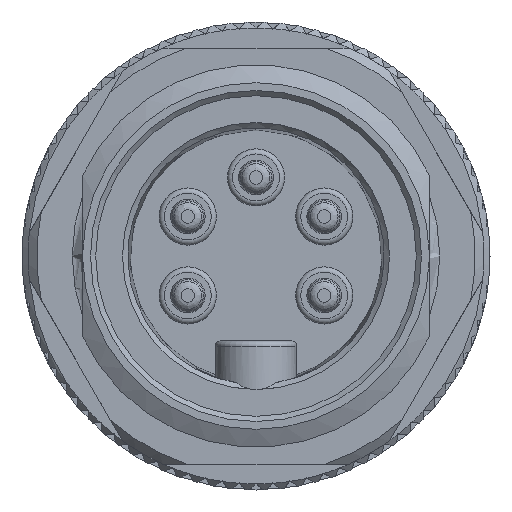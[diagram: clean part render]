
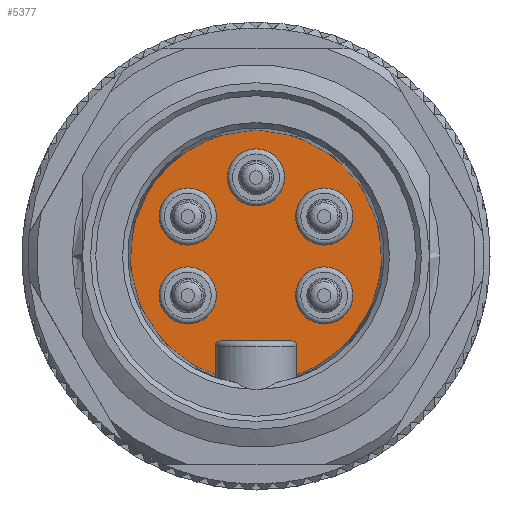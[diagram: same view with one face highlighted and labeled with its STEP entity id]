
A CAD part, left-side view. The second image highlights one B-rep face of the part: STEP entity #5377.
In plain terms, the highlighted planar face has unit normal (-1, 0, 0).
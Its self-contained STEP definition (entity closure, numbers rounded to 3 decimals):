
#1177=CIRCLE('',#17681,1.65);
#1178=CIRCLE('',#17684,1.65);
#1179=CIRCLE('',#17687,1.65);
#1180=CIRCLE('',#17690,0.3);
#1185=CIRCLE('',#17697,0.3);
#1192=CIRCLE('',#17712,1.65);
#1193=CIRCLE('',#17715,1.65);
#1194=CIRCLE('',#17718,7.25);
#1722=PLANE('',#17720);
#3520=LINE('',#29293,#4438);
#3521=LINE('',#29300,#4439);
#3522=LINE('',#29307,#4440);
#4438=VECTOR('',#21953,1.);
#4439=VECTOR('',#21956,1.);
#4440=VECTOR('',#21959,1.);
#5377=ADVANCED_FACE('',(#5702,#5703,#5704,#5705,#5706,#5707),#1722,.F.);
#5702=FACE_BOUND('',#6687,.T.);
#5703=FACE_BOUND('',#6688,.T.);
#5704=FACE_BOUND('',#6689,.T.);
#5705=FACE_BOUND('',#6690,.T.);
#5706=FACE_BOUND('',#6691,.T.);
#5707=FACE_BOUND('',#6692,.T.);
#6687=EDGE_LOOP('',(#11364));
#6688=EDGE_LOOP('',(#11365));
#6689=EDGE_LOOP('',(#11366));
#6690=EDGE_LOOP('',(#11367));
#6691=EDGE_LOOP('',(#11368));
#6692=EDGE_LOOP('',(#11369,#11370,#11371,#11372,#11373,#11374));
#11364=ORIENTED_EDGE('',*,*,#15288,.F.);
#11365=ORIENTED_EDGE('',*,*,#15289,.T.);
#11366=ORIENTED_EDGE('',*,*,#15290,.T.);
#11367=ORIENTED_EDGE('',*,*,#15319,.F.);
#11368=ORIENTED_EDGE('',*,*,#15318,.F.);
#11369=ORIENTED_EDGE('',*,*,#15311,.T.);
#11370=ORIENTED_EDGE('',*,*,#15291,.T.);
#11371=ORIENTED_EDGE('',*,*,#15313,.T.);
#11372=ORIENTED_EDGE('',*,*,#15298,.T.);
#11373=ORIENTED_EDGE('',*,*,#15309,.F.);
#11374=ORIENTED_EDGE('',*,*,#15320,.T.);
#12941=VERTEX_POINT('',#29207);
#12942=VERTEX_POINT('',#29211);
#12943=VERTEX_POINT('',#29215);
#12944=VERTEX_POINT('',#29219);
#12945=VERTEX_POINT('',#29220);
#12950=VERTEX_POINT('',#29234);
#12951=VERTEX_POINT('',#29235);
#12957=VERTEX_POINT('',#29294);
#12958=VERTEX_POINT('',#29301);
#12963=VERTEX_POINT('',#29320);
#12964=VERTEX_POINT('',#29324);
#15288=EDGE_CURVE('',#12941,#12941,#1177,.T.);
#15289=EDGE_CURVE('',#12942,#12942,#1178,.T.);
#15290=EDGE_CURVE('',#12943,#12943,#1179,.T.);
#15291=EDGE_CURVE('',#12944,#12945,#1180,.T.);
#15298=EDGE_CURVE('',#12950,#12951,#1185,.T.);
#15309=EDGE_CURVE('',#12957,#12951,#3520,.T.);
#15311=EDGE_CURVE('',#12958,#12944,#3521,.T.);
#15313=EDGE_CURVE('',#12945,#12950,#3522,.T.);
#15318=EDGE_CURVE('',#12963,#12963,#1192,.T.);
#15319=EDGE_CURVE('',#12964,#12964,#1193,.T.);
#15320=EDGE_CURVE('',#12957,#12958,#1194,.T.);
#17681=AXIS2_PLACEMENT_3D('',#29206,#21903,#21904);
#17684=AXIS2_PLACEMENT_3D('',#29210,#21909,#21910);
#17687=AXIS2_PLACEMENT_3D('',#29214,#21915,#21916);
#17690=AXIS2_PLACEMENT_3D('',#29218,#21921,#21922);
#17697=AXIS2_PLACEMENT_3D('',#29233,#21937,#21938);
#17712=AXIS2_PLACEMENT_3D('',#29319,#21974,#21975);
#17715=AXIS2_PLACEMENT_3D('',#29323,#21980,#21981);
#17718=AXIS2_PLACEMENT_3D('',#29327,#21986,#21987);
#17720=AXIS2_PLACEMENT_3D('',#29329,#21990,#21991);
#21903=DIRECTION('',(-1.,0.,0.));
#21904=DIRECTION('',(0.,0.,1.));
#21909=DIRECTION('',(1.,0.,0.));
#21910=DIRECTION('',(0.,0.,-1.));
#21915=DIRECTION('',(1.,0.,0.));
#21916=DIRECTION('',(0.,0.,-1.));
#21921=DIRECTION('',(1.,0.,0.));
#21922=DIRECTION('',(0.,0.,-1.));
#21937=DIRECTION('',(1.,0.,0.));
#21938=DIRECTION('',(0.,0.,-1.));
#21953=DIRECTION('',(0.,0.,1.));
#21956=DIRECTION('',(0.,0.,1.));
#21959=DIRECTION('',(0.,-1.,0.));
#21974=DIRECTION('',(-1.,0.,0.));
#21975=DIRECTION('',(0.,0.,1.));
#21980=DIRECTION('',(-1.,0.,0.));
#21981=DIRECTION('',(0.,0.,1.));
#21986=DIRECTION('',(-1.,0.,0.));
#21987=DIRECTION('',(0.,0.,1.));
#21990=DIRECTION('',(1.,0.,0.));
#21991=DIRECTION('',(0.,0.,-1.));
#29206=CARTESIAN_POINT('',(7.39,0.,4.535));
#29207=CARTESIAN_POINT('',(7.39,0.,6.185));
#29210=CARTESIAN_POINT('',(7.39,-3.935,-2.275));
#29211=CARTESIAN_POINT('',(7.39,-3.935,-3.925));
#29214=CARTESIAN_POINT('',(7.39,3.935,-2.275));
#29215=CARTESIAN_POINT('',(7.39,3.935,-3.925));
#29218=CARTESIAN_POINT('',(7.39,2.05,-5.2));
#29219=CARTESIAN_POINT('',(7.39,2.35,-5.2));
#29220=CARTESIAN_POINT('',(7.39,2.05,-4.9));
#29233=CARTESIAN_POINT('',(7.39,-2.05,-5.2));
#29234=CARTESIAN_POINT('',(7.39,-2.05,-4.9));
#29235=CARTESIAN_POINT('',(7.39,-2.35,-5.2));
#29293=CARTESIAN_POINT('',(7.39,-2.35,-7.017));
#29294=CARTESIAN_POINT('',(7.39,-2.35,-6.859));
#29300=CARTESIAN_POINT('',(7.39,2.35,-7.017));
#29301=CARTESIAN_POINT('',(7.39,2.35,-6.859));
#29307=CARTESIAN_POINT('',(7.39,2.35,-4.9));
#29319=CARTESIAN_POINT('',(7.39,-3.935,2.275));
#29320=CARTESIAN_POINT('',(7.39,-3.935,3.925));
#29323=CARTESIAN_POINT('',(7.39,3.935,2.275));
#29324=CARTESIAN_POINT('',(7.39,3.935,3.925));
#29327=CARTESIAN_POINT('',(7.39,0.,0.));
#29329=CARTESIAN_POINT('',(7.39,0.,0.));
